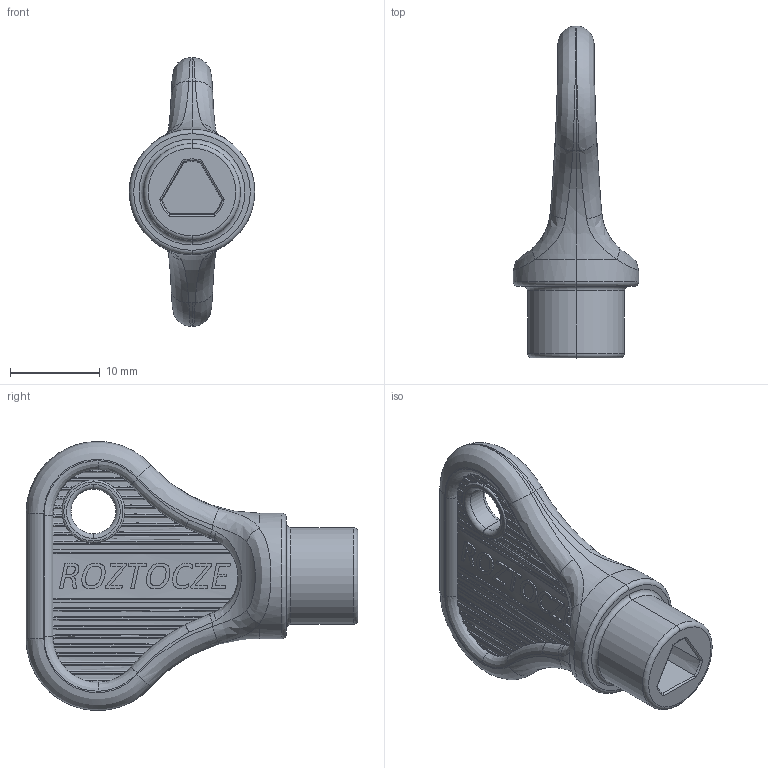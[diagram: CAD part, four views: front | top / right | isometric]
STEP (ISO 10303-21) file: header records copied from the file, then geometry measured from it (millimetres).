
FILE_DESCRIPTION (( 'STEP AP203' ), '1' );
FILE_NAME ('2.KLB-T6.002.STEP', '2022-02-11T12:07:14', ( '' ), ( '' ), 'SwSTEP 2.0', 'SolidWorks 2021', '' );
FILE_SCHEMA (( 'CONFIG_CONTROL_DESIGN' ));
Length unit declared in the file: millimetre
Products named in the file (1): 2.KLB-T6.002
Bounding box: 14 x 37 x 30 mm (x, y, z)
Volume: 2993.8 mm3; surface area: 2327.4 mm2
Topology: 1 solids, 1 shells, 527 faces, 1476 edges, 968 vertices
Faces by surface type: bspline 217, cylinder 160, torus 80, plane 67, cone 3
Entity records: 27014 total; most frequent: CARTESIAN_POINT 15832, ORIENTED_EDGE 2952, EDGE_CURVE 1476, DIRECTION 1412, VERTEX_POINT 968, B_SPLINE_CURVE_WITH_KNOTS 893, AXIS2_PLACEMENT_3D 588, EDGE_LOOP 546
